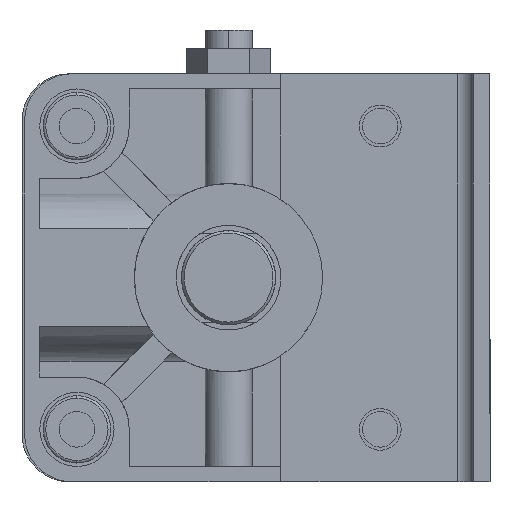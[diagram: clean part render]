
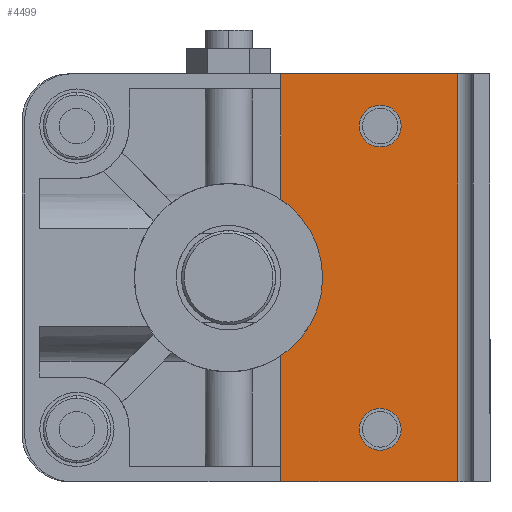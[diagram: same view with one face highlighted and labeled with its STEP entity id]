
A CAD part, left-side view. The second image highlights one B-rep face of the part: STEP entity #4499.
In plain terms, the highlighted planar face has unit normal (-1, 0, 0) as drawn and (0, 0, 1) by its records, which use the part's own axes.
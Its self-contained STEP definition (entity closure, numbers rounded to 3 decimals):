
#34 = CIRCLE ( 'NONE', #8242, 4. ) ;
#77 = CARTESIAN_POINT ( 'NONE',  ( 0., 0., 0. ) ) ;
#289 = CARTESIAN_POINT ( 'NONE',  ( 0., -10.5, 0. ) ) ;
#322 = CARTESIAN_POINT ( 'NONE',  ( 33., -29.5, 0. ) ) ;
#630 = FACE_BOUND ( 'NONE', #9145, .T. ) ;
#759 = VECTOR ( 'NONE', #3817, 1000. ) ;
#890 = ORIENTED_EDGE ( 'NONE', *, *, #7805, .F. ) ;
#899 = EDGE_CURVE ( 'NONE', #5852, #4071, #7951, .T. ) ;
#963 = FACE_OUTER_BOUND ( 'NONE', #5724, .T. ) ;
#1102 = AXIS2_PLACEMENT_3D ( 'NONE', #4169, #4813, #3060 ) ;
#1285 = VECTOR ( 'NONE', #7616, 1000. ) ;
#1291 = CARTESIAN_POINT ( 'NONE',  ( -39., -44.3, 0. ) ) ;
#1324 = EDGE_CURVE ( 'NONE', #8945, #3049, #3419, .T. ) ;
#1523 = EDGE_CURVE ( 'NONE', #4887, #1566, #34, .T. ) ;
#1566 = VERTEX_POINT ( 'NONE', #5845 ) ;
#1729 = LINE ( 'NONE', #289, #759 ) ;
#1991 = LINE ( 'NONE', #4708, #2917 ) ;
#2010 = EDGE_CURVE ( 'NONE', #1566, #4887, #9600, .T. ) ;
#2182 = ORIENTED_EDGE ( 'NONE', *, *, #8087, .F. ) ;
#2200 = CARTESIAN_POINT ( 'NONE',  ( -39., -10.5, 0. ) ) ;
#2300 = DIRECTION ( 'NONE',  ( 1., 0., 0. ) ) ;
#2310 = EDGE_LOOP ( 'NONE', ( #7696, #4606 ) ) ;
#2340 = VERTEX_POINT ( 'NONE', #2200 ) ;
#2417 = VERTEX_POINT ( 'NONE', #8042 ) ;
#2827 = VERTEX_POINT ( 'NONE', #1291 ) ;
#2917 = VECTOR ( 'NONE', #8463, 1000. ) ;
#2992 = CIRCLE ( 'NONE', #7506, 4. ) ;
#3009 = CARTESIAN_POINT ( 'NONE',  ( -33., -29.5, 0. ) ) ;
#3049 = VERTEX_POINT ( 'NONE', #3009 ) ;
#3060 = DIRECTION ( 'NONE',  ( 1., 0., 0. ) ) ;
#3312 = CARTESIAN_POINT ( 'NONE',  ( -14.62, -10.5, 0. ) ) ;
#3344 = LINE ( 'NONE', #3514, #3846 ) ;
#3405 = ORIENTED_EDGE ( 'NONE', *, *, #8735, .T. ) ;
#3419 = CIRCLE ( 'NONE', #1102, 4. ) ;
#3514 = CARTESIAN_POINT ( 'NONE',  ( 39., -30.5, 0. ) ) ;
#3564 = DIRECTION ( 'NONE',  ( -1., 0., 0. ) ) ;
#3596 = DIRECTION ( 'NONE',  ( 1., 0., 0. ) ) ;
#3621 = ORIENTED_EDGE ( 'NONE', *, *, #5278, .F. ) ;
#3817 = DIRECTION ( 'NONE',  ( -1., 0., 0. ) ) ;
#3846 = VECTOR ( 'NONE', #7739, 1000. ) ;
#3929 = DIRECTION ( 'NONE',  ( 0., 0., -1. ) ) ;
#4007 = CARTESIAN_POINT ( 'NONE',  ( -25., -29.5, 0. ) ) ;
#4071 = VERTEX_POINT ( 'NONE', #3312 ) ;
#4126 = CARTESIAN_POINT ( 'NONE',  ( -39., -44.3, 0. ) ) ;
#4169 = CARTESIAN_POINT ( 'NONE',  ( -29., -29.5, 0. ) ) ;
#4200 = ORIENTED_EDGE ( 'NONE', *, *, #6425, .T. ) ;
#4499 = ADVANCED_FACE ( 'NONE', ( #630, #9500, #963 ), #8508, .T. ) ;
#4570 = CARTESIAN_POINT ( 'NONE',  ( 39., -10.5, 0. ) ) ;
#4606 = ORIENTED_EDGE ( 'NONE', *, *, #2010, .T. ) ;
#4616 = EDGE_CURVE ( 'NONE', #4071, #2340, #1729, .T. ) ;
#4708 = CARTESIAN_POINT ( 'NONE',  ( 0., -44.3, 0. ) ) ;
#4813 = DIRECTION ( 'NONE',  ( 0., 0., -1. ) ) ;
#4887 = VERTEX_POINT ( 'NONE', #322 ) ;
#5097 = CARTESIAN_POINT ( 'NONE',  ( -29., -29.5, 0. ) ) ;
#5179 = CARTESIAN_POINT ( 'NONE',  ( 14.62, -10.5, 0. ) ) ;
#5278 = EDGE_CURVE ( 'NONE', #8825, #2417, #3344, .T. ) ;
#5519 = LINE ( 'NONE', #9085, #7578 ) ;
#5724 = EDGE_LOOP ( 'NONE', ( #6937, #9419, #2182, #890, #3621, #3405 ) ) ;
#5742 = ORIENTED_EDGE ( 'NONE', *, *, #1324, .T. ) ;
#5845 = CARTESIAN_POINT ( 'NONE',  ( 25., -29.5, 0. ) ) ;
#5852 = VERTEX_POINT ( 'NONE', #5179 ) ;
#5910 = AXIS2_PLACEMENT_3D ( 'NONE', #4126, #6222, #8035 ) ;
#6222 = DIRECTION ( 'NONE',  ( 0., 0., 1. ) ) ;
#6425 = EDGE_CURVE ( 'NONE', #3049, #8945, #2992, .T. ) ;
#6625 = DIRECTION ( 'NONE',  ( 0., 0., -1. ) ) ;
#6872 = DIRECTION ( 'NONE',  ( 0., 0., -1. ) ) ;
#6937 = ORIENTED_EDGE ( 'NONE', *, *, #899, .T. ) ;
#7026 = DIRECTION ( 'NONE',  ( 1., 0., 0. ) ) ;
#7506 = AXIS2_PLACEMENT_3D ( 'NONE', #5097, #6872, #7026 ) ;
#7578 = VECTOR ( 'NONE', #3564, 1000. ) ;
#7616 = DIRECTION ( 'NONE',  ( 0., 1., 0. ) ) ;
#7696 = ORIENTED_EDGE ( 'NONE', *, *, #1523, .T. ) ;
#7739 = DIRECTION ( 'NONE',  ( 0., -1., 0. ) ) ;
#7789 = CARTESIAN_POINT ( 'NONE',  ( 29., -29.5, 0. ) ) ;
#7805 = EDGE_CURVE ( 'NONE', #2417, #2827, #1991, .T. ) ;
#7928 = AXIS2_PLACEMENT_3D ( 'NONE', #7789, #6625, #2300 ) ;
#7951 = CIRCLE ( 'NONE', #9453, 18. ) ;
#8035 = DIRECTION ( 'NONE',  ( 1., 0., 0. ) ) ;
#8042 = CARTESIAN_POINT ( 'NONE',  ( 39., -44.3, 0. ) ) ;
#8087 = EDGE_CURVE ( 'NONE', #2827, #2340, #8751, .T. ) ;
#8242 = AXIS2_PLACEMENT_3D ( 'NONE', #9593, #8277, #9916 ) ;
#8277 = DIRECTION ( 'NONE',  ( 0., 0., -1. ) ) ;
#8463 = DIRECTION ( 'NONE',  ( -1., 0., 0. ) ) ;
#8508 = PLANE ( 'NONE',  #5910 ) ;
#8735 = EDGE_CURVE ( 'NONE', #8825, #5852, #5519, .T. ) ;
#8751 = LINE ( 'NONE', #9599, #1285 ) ;
#8825 = VERTEX_POINT ( 'NONE', #4570 ) ;
#8945 = VERTEX_POINT ( 'NONE', #4007 ) ;
#9085 = CARTESIAN_POINT ( 'NONE',  ( 0., -10.5, 0. ) ) ;
#9145 = EDGE_LOOP ( 'NONE', ( #5742, #4200 ) ) ;
#9419 = ORIENTED_EDGE ( 'NONE', *, *, #4616, .T. ) ;
#9453 = AXIS2_PLACEMENT_3D ( 'NONE', #77, #3929, #3596 ) ;
#9500 = FACE_BOUND ( 'NONE', #2310, .T. ) ;
#9593 = CARTESIAN_POINT ( 'NONE',  ( 29., -29.5, 0. ) ) ;
#9599 = CARTESIAN_POINT ( 'NONE',  ( -39., -30.5, 0. ) ) ;
#9600 = CIRCLE ( 'NONE', #7928, 4. ) ;
#9916 = DIRECTION ( 'NONE',  ( 1., 0., 0. ) ) ;
